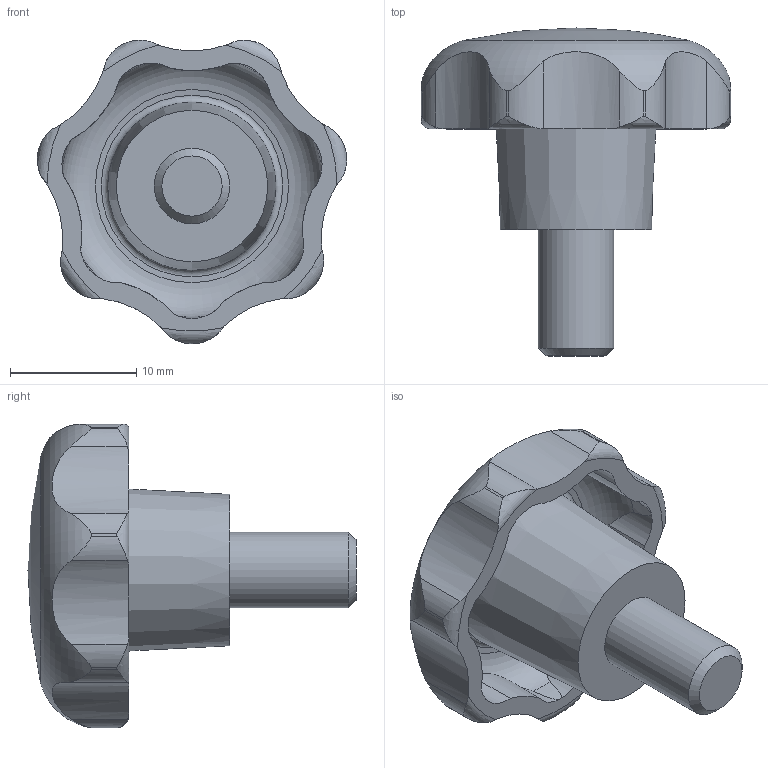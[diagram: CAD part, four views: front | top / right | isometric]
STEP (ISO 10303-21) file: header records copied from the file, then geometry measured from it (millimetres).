
FILE_DESCRIPTION( ( 'STEP AP203' ), '1' );
FILE_NAME( 'C:/Temp/Ganter_Step_05_03_2020/data/2_2/gn_6336_4/gn_6336_4_st/Star knob GN 6336.4-ST-25-M6-10.stp', '2020-03-05T12:07:15', ( 'License CC BY-ND 4.0' ), ( 'CADENAS' ), ' ', 'PARTsolutions', ' ' );
FILE_SCHEMA( ( 'CONFIG_CONTROL_DESIGN' ) );
Length unit declared in the file: millimetre
Products named in the file (1): _Star knob GN 6336.4-ST-25-M6-10
Bounding box: 24.52 x 26 x 24.06 mm (x, y, z)
Volume: 3408 mm3; surface area: 2201.3 mm2
Topology: 1 solids, 1 shells, 74 faces, 209 edges, 138 vertices
Faces by surface type: cylinder 50, torus 10, cone 10, plane 3, sphere 1
Full cylindrical faces by diameter (mm): 6 x1
Entity records: 3129 total; most frequent: CARTESIAN_POINT 1317, ORIENTED_EDGE 394, DIRECTION 336, EDGE_CURVE 197, AXIS2_PLACEMENT_3D 147, VERTEX_POINT 135, EDGE_LOOP 83, B_SPLINE_CURVE_WITH_KNOTS 83
